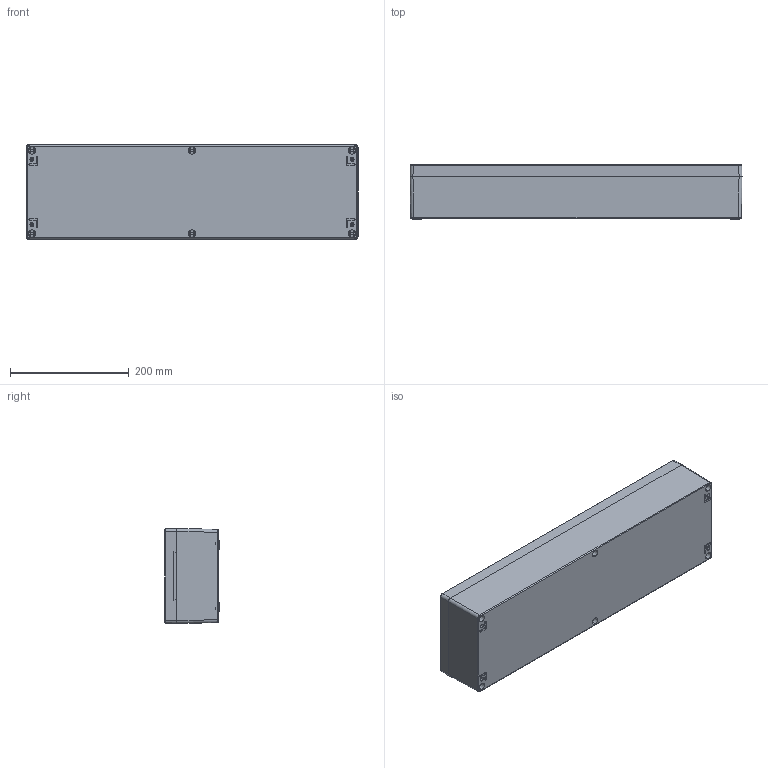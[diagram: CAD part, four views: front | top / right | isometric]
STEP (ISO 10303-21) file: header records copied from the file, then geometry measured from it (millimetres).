
FILE_DESCRIPTION (( 'STEP AP214' ), '1' );
FILE_NAME ('Zag 14.STEP', '2016-05-03T08:43:51', ( '' ), ( '' ), 'SwSTEP 2.0', 'SolidWorks 2015', '' );
FILE_SCHEMA (( 'AUTOMOTIVE_DESIGN' ));
Length unit declared in the file: millimetre
Products named in the file (4): pan head cross recess screw_bsi_ISO 7045 - M5 x 25 - Z --- 25N; Zag 14 Lid; Zag 14 Body; Zag 14
Assembly tree (8 placements, depth 2):
  Zag 14
    Zag 14 Body
    Zag 14 Lid
    pan head cross recess screw_bsi_ISO 7045 - M5 x 25 - Z --- 25N  x6
Bounding box: 560 x 91.2 x 160 mm (x, y, z)
Volume: 1512446.6 mm3; surface area: 641446.5 mm2
Topology: 8 solids, 8 shells, 585 faces, 1515 edges, 958 vertices
Faces by surface type: plane 260, cylinder 150, cone 109, bspline 30, torus 24, sphere 12
Entity records: 13877 total; most frequent: CARTESIAN_POINT 3226, ORIENTED_EDGE 2146, DIRECTION 2137, EDGE_CURVE 1073, AXIS2_PLACEMENT_3D 770, VERTEX_POINT 703, LINE 597, VECTOR 597
